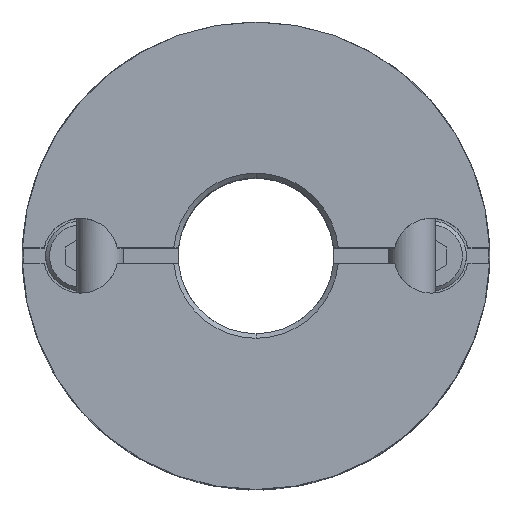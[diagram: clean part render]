
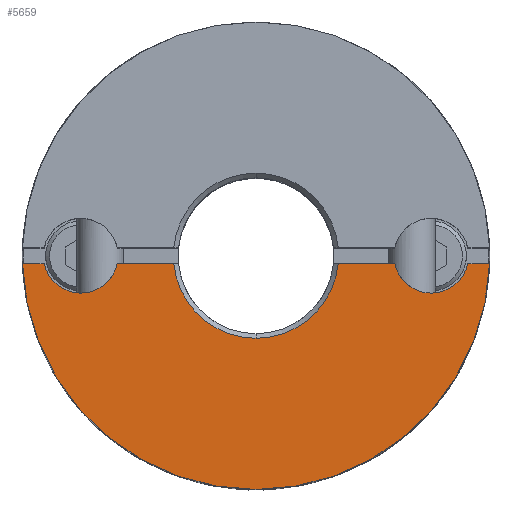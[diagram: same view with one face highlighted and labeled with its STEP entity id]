
A CAD part, top view. The second image highlights one B-rep face of the part: STEP entity #5659.
In plain terms, the highlighted planar face has unit normal (0, 0, 1).
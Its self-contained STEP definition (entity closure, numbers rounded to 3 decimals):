
#2176=CARTESIAN_POINT('',(0.,-15.0,11.8));
#2177=VERTEX_POINT('',#2176);
#2184=CARTESIAN_POINT('',(-14.992,-0.5,11.8));
#2185=VERTEX_POINT('',#2184);
#2186=CARTESIAN_POINT('',(0.0,0.0,11.8));
#2187=DIRECTION('',(0.0,0.0,-1.0));
#2188=DIRECTION('',(0.0,1.0,0.0));
#2189=AXIS2_PLACEMENT_3D('',#2186,#2187,#2188);
#2190=CIRCLE('',#2189,15.0);
#2191=EDGE_CURVE('',#2177,#2185,#2190,.T.);
#2582=CARTESIAN_POINT('',(0.,-5.3,11.8));
#2583=VERTEX_POINT('',#2582);
#2591=CARTESIAN_POINT('',(-5.276,-0.5,11.8));
#2592=VERTEX_POINT('',#2591);
#2606=CARTESIAN_POINT('',(0.0,0.0,11.8));
#2607=DIRECTION('',(0.0,0.0,1.0));
#2608=DIRECTION('',(0.0,-1.0,0.0));
#2609=AXIS2_PLACEMENT_3D('',#2606,#2607,#2608);
#2610=CIRCLE('',#2609,5.3);
#2611=EDGE_CURVE('',#2592,#2583,#2610,.T.);
#2984=CARTESIAN_POINT('',(-11.25,-2.4,11.8));
#2985=VERTEX_POINT('',#2984);
#2992=CARTESIAN_POINT('',(-8.903,-0.5,11.8));
#2993=VERTEX_POINT('',#2992);
#2994=CARTESIAN_POINT('',(-11.25,0.,11.8));
#2995=DIRECTION('',(0.0,0.0,-1.0));
#2996=DIRECTION('',(0.0,1.0,0.0));
#2997=AXIS2_PLACEMENT_3D('',#2994,#2995,#2996);
#2998=CIRCLE('',#2997,2.4);
#2999=EDGE_CURVE('',#2993,#2985,#2998,.T.);
#3059=CARTESIAN_POINT('',(-13.597,-0.5,11.8));
#3060=VERTEX_POINT('',#3059);
#3067=CARTESIAN_POINT('',(-11.25,0.,11.8));
#3068=DIRECTION('',(0.0,0.0,-1.0));
#3069=DIRECTION('',(0.0,1.0,0.0));
#3070=AXIS2_PLACEMENT_3D('',#3067,#3068,#3069);
#3071=CIRCLE('',#3070,2.4);
#3072=EDGE_CURVE('',#2985,#3060,#3071,.T.);
#3277=CARTESIAN_POINT('',(11.25,-2.4,11.8));
#3278=VERTEX_POINT('',#3277);
#3310=CARTESIAN_POINT('',(8.903,-0.5,11.8));
#3311=VERTEX_POINT('',#3310);
#3318=CARTESIAN_POINT('',(11.25,0.,11.8));
#3319=DIRECTION('',(0.0,0.0,-1.0));
#3320=DIRECTION('',(0.0,1.0,0.0));
#3321=AXIS2_PLACEMENT_3D('',#3318,#3319,#3320);
#3322=CIRCLE('',#3321,2.4);
#3323=EDGE_CURVE('',#3278,#3311,#3322,.T.);
#4401=CARTESIAN_POINT('',(13.597,-0.5,11.8));
#4402=VERTEX_POINT('',#4401);
#4403=CARTESIAN_POINT('',(11.25,0.,11.8));
#4404=DIRECTION('',(0.0,0.0,-1.0));
#4405=DIRECTION('',(0.0,1.0,0.0));
#4406=AXIS2_PLACEMENT_3D('',#4403,#4404,#4405);
#4407=CIRCLE('',#4406,2.4);
#4408=EDGE_CURVE('',#4402,#3278,#4407,.T.);
#4694=CARTESIAN_POINT('',(-5.276,-0.5,11.8));
#4695=DIRECTION('',(-1.0,0.0,0.0));
#4696=VECTOR('',#4695,3.626);
#4697=LINE('',#4694,#4696);
#4698=EDGE_CURVE('',#2592,#2993,#4697,.T.);
#4811=CARTESIAN_POINT('',(5.276,-0.5,11.8));
#4812=VERTEX_POINT('',#4811);
#4826=CARTESIAN_POINT('',(8.903,-0.5,11.8));
#4827=DIRECTION('',(-1.0,0.0,0.0));
#4828=VECTOR('',#4827,3.626);
#4829=LINE('',#4826,#4828);
#4830=EDGE_CURVE('',#3311,#4812,#4829,.T.);
#5406=CARTESIAN_POINT('',(14.992,-0.5,11.8));
#5407=VERTEX_POINT('',#5406);
#5408=CARTESIAN_POINT('',(14.992,-0.5,11.8));
#5409=DIRECTION('',(-1.0,0.0,0.0));
#5410=VECTOR('',#5409,1.394);
#5411=LINE('',#5408,#5410);
#5412=EDGE_CURVE('',#5407,#4402,#5411,.T.);
#5526=CARTESIAN_POINT('',(-13.597,-0.5,11.8));
#5527=DIRECTION('',(-1.0,0.0,0.0));
#5528=VECTOR('',#5527,1.394);
#5529=LINE('',#5526,#5528);
#5530=EDGE_CURVE('',#3060,#2185,#5529,.T.);
#5628=CARTESIAN_POINT('',(0.,1.364,11.8));
#5629=DIRECTION('',(0.0,0.0,1.0));
#5630=DIRECTION('',(0.0,1.0,0.0));
#5631=AXIS2_PLACEMENT_3D('',#5628,#5629,#5630);
#5632=PLANE('',#5631);
#5633=ORIENTED_EDGE('',*,*,#4408,.T.);
#5634=ORIENTED_EDGE('',*,*,#3323,.T.);
#5635=ORIENTED_EDGE('',*,*,#4830,.T.);
#5636=CARTESIAN_POINT('',(0.0,0.0,11.8));
#5637=DIRECTION('',(0.0,0.0,1.0));
#5638=DIRECTION('',(0.0,-1.0,0.0));
#5639=AXIS2_PLACEMENT_3D('',#5636,#5637,#5638);
#5640=CIRCLE('',#5639,5.3);
#5641=EDGE_CURVE('',#2583,#4812,#5640,.T.);
#5642=ORIENTED_EDGE('',*,*,#5641,.F.);
#5643=ORIENTED_EDGE('',*,*,#2611,.F.);
#5644=ORIENTED_EDGE('',*,*,#4698,.T.);
#5645=ORIENTED_EDGE('',*,*,#2999,.T.);
#5646=ORIENTED_EDGE('',*,*,#3072,.T.);
#5647=ORIENTED_EDGE('',*,*,#5530,.T.);
#5648=ORIENTED_EDGE('',*,*,#2191,.F.);
#5649=CARTESIAN_POINT('',(0.0,0.0,11.8));
#5650=DIRECTION('',(0.0,0.0,-1.0));
#5651=DIRECTION('',(0.0,1.0,0.0));
#5652=AXIS2_PLACEMENT_3D('',#5649,#5650,#5651);
#5653=CIRCLE('',#5652,15.0);
#5654=EDGE_CURVE('',#5407,#2177,#5653,.T.);
#5655=ORIENTED_EDGE('',*,*,#5654,.F.);
#5656=ORIENTED_EDGE('',*,*,#5412,.T.);
#5657=EDGE_LOOP('',(#5633,#5634,#5635,#5642,#5643,#5644,#5645,#5646,#5647,#5648,#5655,#5656));
#5658=FACE_OUTER_BOUND('',#5657,.T.);
#5659=ADVANCED_FACE('',(#5658),#5632,.T.);
